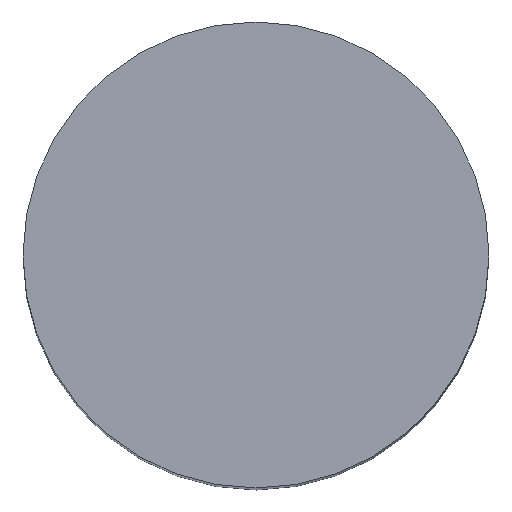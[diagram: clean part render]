
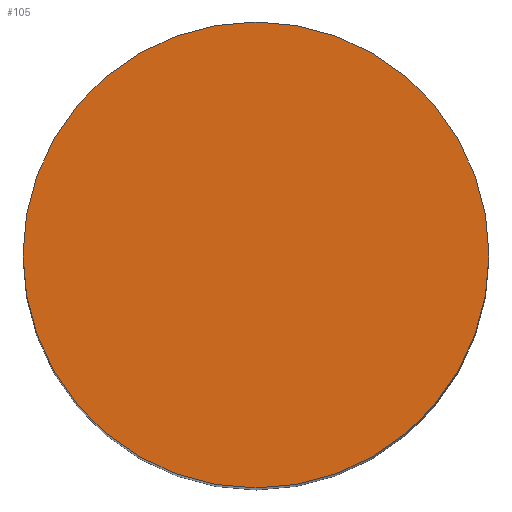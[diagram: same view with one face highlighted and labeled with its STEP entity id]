
A CAD part, top view. The second image highlights one B-rep face of the part: STEP entity #105.
In plain terms, the highlighted planar face has unit normal (0, 0, 1).
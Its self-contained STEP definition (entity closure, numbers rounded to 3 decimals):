
#21 = EDGE_CURVE('',#22,#22,#24,.T.);
#22 = VERTEX_POINT('',#23);
#23 = CARTESIAN_POINT('',(-491.,120.,37.));
#24 = SURFACE_CURVE('',#25,(#30,#42),.PCURVE_S1.);
#25 = CIRCLE('',#26,4.);
#26 = AXIS2_PLACEMENT_3D('',#27,#28,#29);
#27 = CARTESIAN_POINT('',(-495.,120.,37.));
#28 = DIRECTION('',(0.,0.,1.));
#29 = DIRECTION('',(1.,0.,-0.));
#30 = PCURVE('',#31,#36);
#31 = CYLINDRICAL_SURFACE('',#32,4.);
#32 = AXIS2_PLACEMENT_3D('',#33,#34,#35);
#33 = CARTESIAN_POINT('',(-495.,120.,17.));
#34 = DIRECTION('',(0.,0.,1.));
#35 = DIRECTION('',(1.,0.,-0.));
#36 = DEFINITIONAL_REPRESENTATION('',(#37),#41);
#37 = LINE('',#38,#39);
#38 = CARTESIAN_POINT('',(0.,20.));
#39 = VECTOR('',#40,1.);
#40 = DIRECTION('',(1.,0.));
#41 = ( GEOMETRIC_REPRESENTATION_CONTEXT(2) 
PARAMETRIC_REPRESENTATION_CONTEXT() REPRESENTATION_CONTEXT('2D SPACE',''
  ) );
#42 = PCURVE('',#43,#48);
#43 = PLANE('',#44);
#44 = AXIS2_PLACEMENT_3D('',#45,#46,#47);
#45 = CARTESIAN_POINT('',(-495.,120.,37.));
#46 = DIRECTION('',(0.,0.,1.));
#47 = DIRECTION('',(1.,0.,-0.));
#48 = DEFINITIONAL_REPRESENTATION('',(#49),#53);
#49 = CIRCLE('',#50,4.);
#50 = AXIS2_PLACEMENT_2D('',#51,#52);
#51 = CARTESIAN_POINT('',(0.,0.));
#52 = DIRECTION('',(1.,0.));
#53 = ( GEOMETRIC_REPRESENTATION_CONTEXT(2) 
PARAMETRIC_REPRESENTATION_CONTEXT() REPRESENTATION_CONTEXT('2D SPACE',''
  ) );
#105 = ADVANCED_FACE('',(#106),#43,.T.);
#106 = FACE_BOUND('',#107,.T.);
#107 = EDGE_LOOP('',(#108));
#108 = ORIENTED_EDGE('',*,*,#21,.T.);
